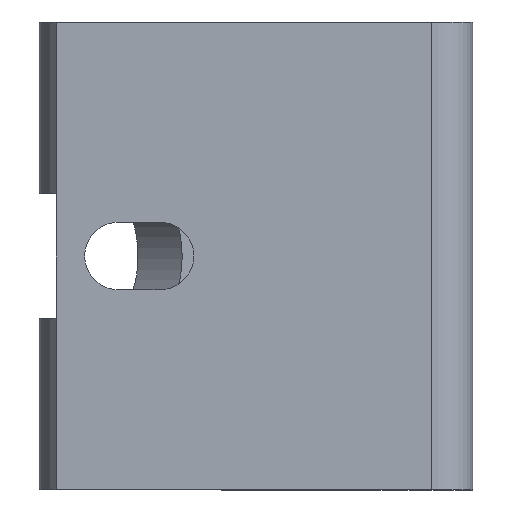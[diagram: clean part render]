
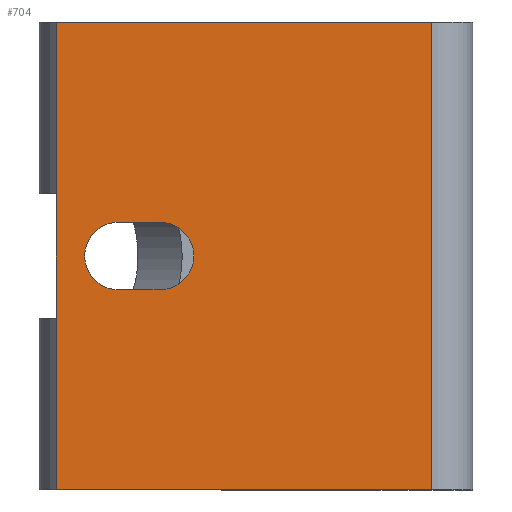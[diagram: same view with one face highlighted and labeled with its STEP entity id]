
A CAD part, left-side view. The second image highlights one B-rep face of the part: STEP entity #704.
In plain terms, the highlighted planar face has unit normal (-1, 0, 0).
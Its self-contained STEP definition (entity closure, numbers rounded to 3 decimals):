
#23 = VECTOR ( 'NONE', #863, 1000. ) ;
#67 = LINE ( 'NONE', #760, #23 ) ;
#69 = CARTESIAN_POINT ( 'NONE',  ( -4., 36.062, 45. ) ) ;
#77 = VERTEX_POINT ( 'NONE', #905 ) ;
#97 = ORIENTED_EDGE ( 'NONE', *, *, #437, .T. ) ;
#100 = EDGE_CURVE ( 'NONE', #1075, #379, #373, .T. ) ;
#111 = VERTEX_POINT ( 'NONE', #1342 ) ;
#121 = DIRECTION ( 'NONE',  ( 1., 0., 0. ) ) ;
#129 = VERTEX_POINT ( 'NONE', #819 ) ;
#131 = VECTOR ( 'NONE', #273, 1000. ) ;
#155 = DIRECTION ( 'NONE',  ( 0., 0., 1. ) ) ;
#166 = EDGE_CURVE ( 'NONE', #111, #296, #332, .T. ) ;
#183 = CIRCLE ( 'NONE', #1091, 3.25 ) ;
#191 = ORIENTED_EDGE ( 'NONE', *, *, #212, .F. ) ;
#193 = DIRECTION ( 'NONE',  ( -1., 0., 0. ) ) ;
#207 = ORIENTED_EDGE ( 'NONE', *, *, #796, .F. ) ;
#212 = EDGE_CURVE ( 'NONE', #1332, #1153, #689, .T. ) ;
#216 = CARTESIAN_POINT ( 'NONE',  ( -4., 0., 45. ) ) ;
#243 = LINE ( 'NONE', #1302, #919 ) ;
#249 = CARTESIAN_POINT ( 'NONE',  ( -4., 26.062, 25.75 ) ) ;
#273 = DIRECTION ( 'NONE',  ( 0., 0., -1. ) ) ;
#296 = VERTEX_POINT ( 'NONE', #249 ) ;
#332 = CIRCLE ( 'NONE', #1020, 3.25 ) ;
#338 = CARTESIAN_POINT ( 'NONE',  ( -4., 36.062, 28.5 ) ) ;
#341 = FACE_OUTER_BOUND ( 'NONE', #1172, .T. ) ;
#366 = CARTESIAN_POINT ( 'NONE',  ( -4., 30.062, 25.75 ) ) ;
#373 = LINE ( 'NONE', #381, #131 ) ;
#379 = VERTEX_POINT ( 'NONE', #1321 ) ;
#381 = CARTESIAN_POINT ( 'NONE',  ( -4., 0., 45. ) ) ;
#390 = LINE ( 'NONE', #820, #1048 ) ;
#397 = DIRECTION ( 'NONE',  ( 0., -1., 0. ) ) ;
#398 = EDGE_CURVE ( 'NONE', #296, #830, #67, .T. ) ;
#437 = EDGE_CURVE ( 'NONE', #1332, #379, #969, .T. ) ;
#471 = AXIS2_PLACEMENT_3D ( 'NONE', #553, #1176, #636 ) ;
#495 = CARTESIAN_POINT ( 'NONE',  ( -4., 30.062, 19.25 ) ) ;
#533 = DIRECTION ( 'NONE',  ( 0., -1., 0. ) ) ;
#537 = VECTOR ( 'NONE', #985, 1000. ) ;
#553 = CARTESIAN_POINT ( 'NONE',  ( -4., 26.062, 22.5 ) ) ;
#560 = AXIS2_PLACEMENT_3D ( 'NONE', #216, #121, #1083 ) ;
#587 = VERTEX_POINT ( 'NONE', #495 ) ;
#601 = VECTOR ( 'NONE', #155, 1000. ) ;
#624 = EDGE_LOOP ( 'NONE', ( #993, #1296, #782, #1247, #1219 ) ) ;
#626 = EDGE_CURVE ( 'NONE', #1153, #129, #390, .T. ) ;
#628 = EDGE_CURVE ( 'NONE', #587, #77, #931, .T. ) ;
#636 = DIRECTION ( 'NONE',  ( 0., -1., 0. ) ) ;
#655 = LINE ( 'NONE', #338, #537 ) ;
#657 = FACE_BOUND ( 'NONE', #624, .T. ) ;
#671 = CARTESIAN_POINT ( 'NONE',  ( -4., 36.062, 16.5 ) ) ;
#678 = EDGE_CURVE ( 'NONE', #77, #111, #1202, .T. ) ;
#689 = LINE ( 'NONE', #793, #601 ) ;
#704 = ADVANCED_FACE ( 'NONE', ( #657, #341 ), #1056, .F. ) ;
#708 = CARTESIAN_POINT ( 'NONE',  ( -4., 36.062, 0. ) ) ;
#760 = CARTESIAN_POINT ( 'NONE',  ( -4., 30.062, 25.75 ) ) ;
#782 = ORIENTED_EDGE ( 'NONE', *, *, #166, .F. ) ;
#793 = CARTESIAN_POINT ( 'NONE',  ( -4., 36.062, 0. ) ) ;
#796 = EDGE_CURVE ( 'NONE', #976, #1075, #243, .T. ) ;
#800 = ORIENTED_EDGE ( 'NONE', *, *, #626, .F. ) ;
#819 = CARTESIAN_POINT ( 'NONE',  ( -4., 36.062, 28.5 ) ) ;
#820 = CARTESIAN_POINT ( 'NONE',  ( -4., 36.062, 0. ) ) ;
#830 = VERTEX_POINT ( 'NONE', #366 ) ;
#832 = VECTOR ( 'NONE', #397, 1000. ) ;
#851 = CARTESIAN_POINT ( 'NONE',  ( -4., 0., 45. ) ) ;
#863 = DIRECTION ( 'NONE',  ( 0., 1., 0. ) ) ;
#867 = CARTESIAN_POINT ( 'NONE',  ( -4., 0., 0. ) ) ;
#905 = CARTESIAN_POINT ( 'NONE',  ( -4., 26.062, 19.25 ) ) ;
#919 = VECTOR ( 'NONE', #1089, 1000. ) ;
#931 = LINE ( 'NONE', #1343, #832 ) ;
#953 = EDGE_CURVE ( 'NONE', #830, #587, #183, .T. ) ;
#969 = LINE ( 'NONE', #867, #1002 ) ;
#976 = VERTEX_POINT ( 'NONE', #69 ) ;
#985 = DIRECTION ( 'NONE',  ( 0., 0., 1. ) ) ;
#993 = ORIENTED_EDGE ( 'NONE', *, *, #953, .F. ) ;
#1002 = VECTOR ( 'NONE', #1167, 1000. ) ;
#1020 = AXIS2_PLACEMENT_3D ( 'NONE', #1151, #1034, #533 ) ;
#1034 = DIRECTION ( 'NONE',  ( -1., 0., 0. ) ) ;
#1048 = VECTOR ( 'NONE', #1235, 1000. ) ;
#1056 = PLANE ( 'NONE',  #560 ) ;
#1075 = VERTEX_POINT ( 'NONE', #851 ) ;
#1083 = DIRECTION ( 'NONE',  ( 0., 1., 0. ) ) ;
#1089 = DIRECTION ( 'NONE',  ( 0., -1., 0. ) ) ;
#1091 = AXIS2_PLACEMENT_3D ( 'NONE', #1143, #193, #1334 ) ;
#1123 = EDGE_CURVE ( 'NONE', #129, #976, #655, .T. ) ;
#1143 = CARTESIAN_POINT ( 'NONE',  ( -4., 30.062, 22.5 ) ) ;
#1151 = CARTESIAN_POINT ( 'NONE',  ( -4., 26.062, 22.5 ) ) ;
#1153 = VERTEX_POINT ( 'NONE', #671 ) ;
#1167 = DIRECTION ( 'NONE',  ( 0., -1., 0. ) ) ;
#1172 = EDGE_LOOP ( 'NONE', ( #97, #1232, #207, #1181, #800, #191 ) ) ;
#1176 = DIRECTION ( 'NONE',  ( -1., 0., 0. ) ) ;
#1181 = ORIENTED_EDGE ( 'NONE', *, *, #1123, .F. ) ;
#1202 = CIRCLE ( 'NONE', #471, 3.25 ) ;
#1219 = ORIENTED_EDGE ( 'NONE', *, *, #628, .F. ) ;
#1232 = ORIENTED_EDGE ( 'NONE', *, *, #100, .F. ) ;
#1235 = DIRECTION ( 'NONE',  ( 0., 0., 1. ) ) ;
#1247 = ORIENTED_EDGE ( 'NONE', *, *, #678, .F. ) ;
#1296 = ORIENTED_EDGE ( 'NONE', *, *, #398, .F. ) ;
#1302 = CARTESIAN_POINT ( 'NONE',  ( -4., 0., 45. ) ) ;
#1321 = CARTESIAN_POINT ( 'NONE',  ( -4., 0., 0. ) ) ;
#1332 = VERTEX_POINT ( 'NONE', #708 ) ;
#1334 = DIRECTION ( 'NONE',  ( 0., -1., 0. ) ) ;
#1342 = CARTESIAN_POINT ( 'NONE',  ( -4., 22.812, 22.5 ) ) ;
#1343 = CARTESIAN_POINT ( 'NONE',  ( -4., 30.062, 19.25 ) ) ;
